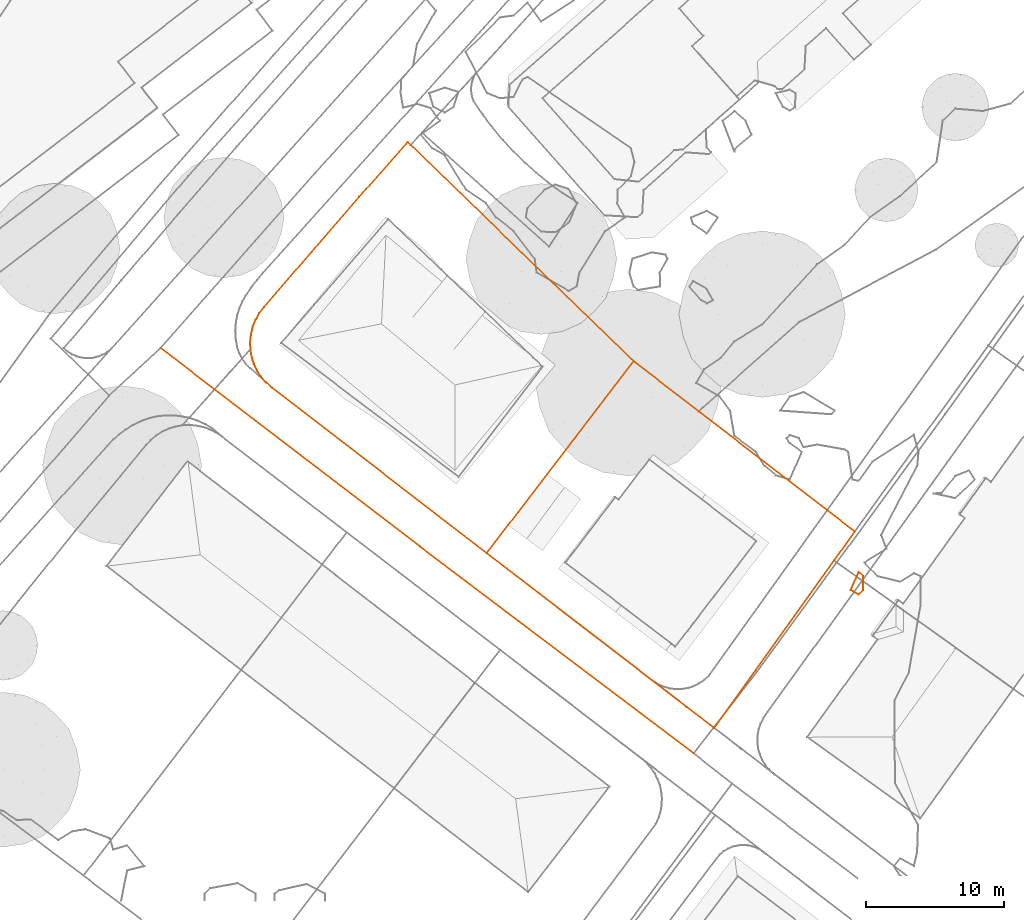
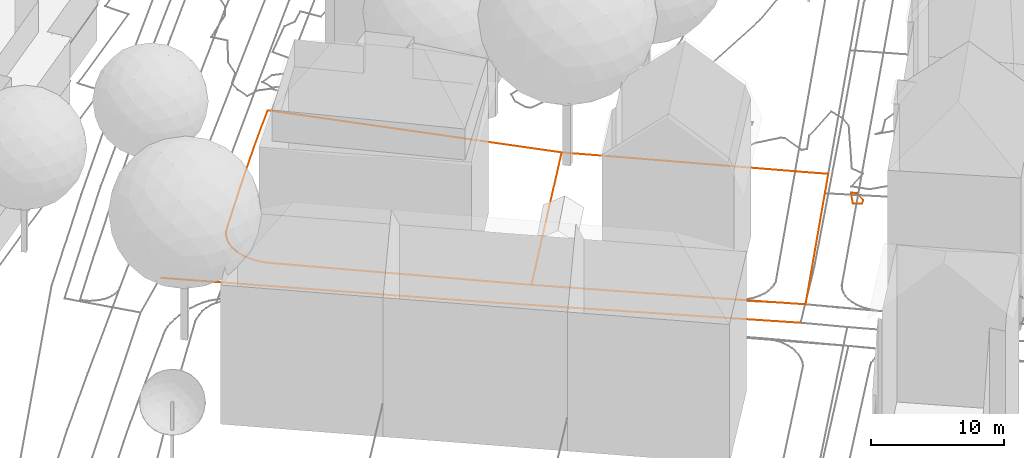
# Not in any storey, part 116 of 494: 4 proxies.
"""IFC2X3 model written with IfcOpenShell, lengths in metres."""

from ifc_helpers import new_model, entity, si_unit, frame, origin_with_axes, place, context, subcontext, project, element, save


model = new_model("IFC2X3")

# Units and contexts
model_context = context("Model", 3, precision=1e-05, world=origin_with_axes())
body_context = subcontext(model_context, "Body", "Model", "MODEL_VIEW")
ifc_project = project(units=[si_unit("AREAUNIT", "SQUARE_METRE"), si_unit("LENGTHUNIT", "METRE")], contexts=[model_context])

# Proxies
proxy_1_placement = place(None, frame((305.0887320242, 38.7097419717, 503.035), z_axis=(0.0, 0.0, 1.0), x_axis=(1.0, 0.0, 0.0)))
element("IfcBuildingElementProxy", 1, at=proxy_1_placement, Name="Road 120", ObjectType="NOTDEFINED", context=body_context, shape_type="GeometricCurveSet", body=[
    entity("IfcGeometricCurveSet", [entity("IfcPolyline", [entity("IfcCartesianPoint", [0.0, 0.0, 0.0]), entity("IfcCartesianPoint", [18.7970000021, -14.3899995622, 0.001]), entity("IfcCartesianPoint", [38.620000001, -29.368999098, 0.163])])]),
])
proxy_2_placement = place(None, frame((328.7177320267, 23.8377160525, 503.1301739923), z_axis=(0.0, 0.0, 1.0), x_axis=(1.0, 0.0, 0.0)))
element("IfcBuildingElementProxy", 2, at=proxy_2_placement, Name="Cadastre 174", ObjectType="NOTDEFINED", context=body_context, shape_type="GeometricCurveSet", body=[
    entity("IfcGeometricCurveSet", [entity("IfcPolyline", [entity("IfcCartesianPoint", [0.0, 0.0, 0.0]), entity("IfcCartesianPoint", [10.6499999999, 13.9099999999, -0.0015137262]), entity("IfcCartesianPoint", [15.3590000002, 10.2799999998, -0.0234229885]), entity("IfcCartesianPoint", [24.6979999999, 3.0899999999, -0.0925022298]), entity("IfcCartesianPoint", [26.6779999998, 1.5699999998, -0.094626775]), entity("IfcCartesianPoint", [25.1680000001, -0.54, -0.0731151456]), entity("IfcCartesianPoint", [16.4870000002, -12.6600000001, 0.124353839]), entity("IfcCartesianPoint", [14.5079999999, -11.1400000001, 0.1004042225]), entity("IfcCartesianPoint", [0.0, 0.0, 0.0])])]),
])
proxy_3_placement = place(None, frame((311.5937320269, 39.1727160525, 503.2593492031), z_axis=(0.0, 0.0, 1.0), x_axis=(1.0, 0.0, 0.0)))
element("IfcBuildingElementProxy", 3, at=proxy_3_placement, Name="Cadastre 180", ObjectType="NOTDEFINED", context=body_context, shape_type="GeometricCurveSet", body=[
    entity("IfcGeometricCurveSet", [entity("IfcPolyline", [entity("IfcCartesianPoint", [0.0159999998, -0.5450000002, 0.00190173]), entity("IfcCartesianPoint", [0.0, 0.0, 0.0]), entity("IfcCartesianPoint", [0.0589999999, 0.5419999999, -0.0016629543]), entity("IfcCartesianPoint", [0.1899999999, 1.071, 5.79349e-05]), entity("IfcCartesianPoint", [0.392, 1.5769999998, -0.0021379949]), entity("IfcCartesianPoint", [0.6609999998, 2.0519999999, -0.0051290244]), entity("IfcCartesianPoint", [0.9920000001, 2.4849999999, -0.0048990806]), entity("IfcCartesianPoint", [4.4329999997, 6.5019999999, 0.0127109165]), entity("IfcCartesianPoint", [7.9049999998, 10.4919999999, 0.0004331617]), entity("IfcCartesianPoint", [11.4069999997, 14.4549999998, -0.1744434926]), entity("IfcCartesianPoint", [11.6179999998, 14.25, -0.164680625]), entity("IfcCartesianPoint", [27.7739999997, -1.425, -0.130688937]), entity("IfcCartesianPoint", [17.1239999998, -15.335, -0.1291752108]), entity("IfcCartesianPoint", [1.5559999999, -3.3250000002, 0.0319651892]), entity("IfcCartesianPoint", [1.148, -2.9640000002, 0.0229081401]), entity("IfcCartesianPoint", [0.7930000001, -2.5520000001, 0.0171548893]), entity("IfcCartesianPoint", [0.4979999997, -2.095, 0.010886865]), entity("IfcCartesianPoint", [0.267, -1.602, 0.000210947]), entity("IfcCartesianPoint", [0.105, -1.0820000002, -0.0025219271]), entity("IfcCartesianPoint", [0.0159999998, -0.5450000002, 0.00190173])])]),
])
proxy_4_placement = place(None, frame((355.0908884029, 21.1707160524, 503.0), z_axis=(0.0, 0.0, 1.0), x_axis=(1.0, 0.0, 0.0)))
element("IfcBuildingElementProxy", 4, at=proxy_4_placement, Name="Contour Line 503.0 m", ObjectType="NOTDEFINED", context=body_context, shape_type="GeometricCurveSet", body=[
    entity("IfcGeometricCurveSet", [entity("IfcPolyline", [entity("IfcCartesianPoint", [0.5868436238, -0.3282763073, 0.0]), entity("IfcCartesianPoint", [0.8982337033, 0.0, 0.0]), entity("IfcCartesianPoint", [0.9220871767, 1.0, 0.0]), entity("IfcCartesianPoint", [0.5868436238, 1.3031088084, 0.0]), entity("IfcCartesianPoint", [0.0, 0.0, 0.0]), entity("IfcCartesianPoint", [0.5868436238, -0.3282763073, 0.0])])]),
])

save(model, "model.ifc")
